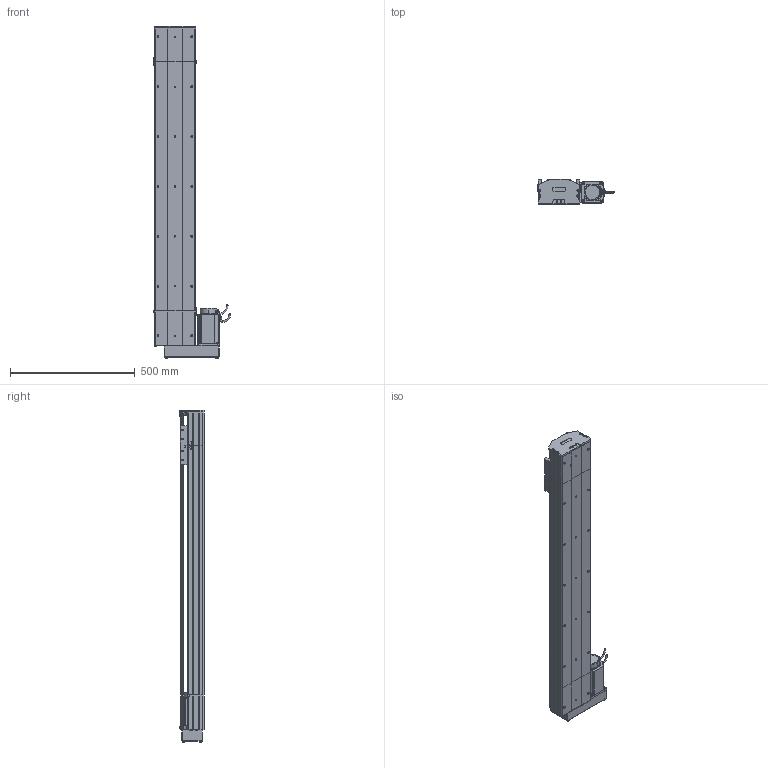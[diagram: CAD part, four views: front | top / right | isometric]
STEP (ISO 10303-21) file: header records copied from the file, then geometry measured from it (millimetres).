
FILE_DESCRIPTION (( 'STEP AP214' ), '1' );
FILE_NAME ('D17 TSH BL S1000.STEP', '2010-06-30T06:51:40', ( 'Christophe Gaillard' ), ( 'SGA' ), 'SwSTEP 2.0', 'SolidWorks 2010', '' );
FILE_SCHEMA (( 'AUTOMOTIVE_DESIGN' ));
Length unit declared in the file: millimetre
Products named in the file (33): corpl head D17 BM_Default; arbre + rail D17 Course 1000 ; course 1000 D17_Default; D17 TSH BL S1000; Tail D17_Default; couvercle D17 course L1000_Default; corp D17 1000_Default; tete d''axe bas D17; plaque de  bout tail D17_Default; corpl tail D17_Default; couvercle D17_Default; Arbre+rail tail D17; tete d''axe haut D17; head BL_Default; vis M5 L25_Default; vis M5 L8 90°_Default; vis M5 L12_Default; guide D17; Chariot D17; chariot D17S_Default; Cvis M5 L70_Default; renvoi BL_Default; Vis M5 L16-2_Default; Conecteur_Default; avant 90BLDC125A-640; Moteur motionking 90BLDC125A-640; vis M5 L5_Default; Conecteur2_Default; codeur 90BLDC125-640; corps 90BLDC125A-640; Arbre+rail head D17; plaque de  bout BM head D17_Default; couvercle D17 head_Default
Assembly tree (55 placements, depth 4):
  D17 TSH BL S1000
    chariot D17S_Default
      guide D17  x2
      vis M5 L12_Default  x4
      Chariot D17
    Tail D17_Default
      vis M5 L12_Default  x4
      vis M5 L25_Default  x2
      vis M5 L8 90°_Default  x2
      corpl tail D17_Default
      tete d''axe bas D17
      couvercle D17_Default
      tete d''axe haut D17
      plaque de  bout tail D17_Default
      Arbre+rail tail D17
    head BL_Default
      corpl head D17 BM_Default
      vis M5 L12_Default  x8
      Arbre+rail head D17
      renvoi BL_Default
      Vis M5 L16-2_Default  x4
      couvercle D17 head_Default
      Cvis M5 L70_Default  x2
      vis M5 L5_Default  x2
      Moteur motionking 90BLDC125A-640
        Conecteur_Default
        corps 90BLDC125A-640
        codeur 90BLDC125-640
        avant 90BLDC125A-640
        Conecteur2_Default
      plaque de  bout BM head D17_Default
    course 1000 D17_Default
      couvercle D17 course L1000_Default
      corp D17 1000_Default
      arbre + rail D17 Course 1000 
Bounding box: 308.95 x 99.7 x 1332.7 mm (x, y, z)
Volume: 8759942 mm3; surface area: 2230023.6 mm2
Topology: 80 solids, 80 shells, 2263 faces, 5699 edges, 3676 vertices
Faces by surface type: plane 1396, cylinder 590, bspline 136, torus 73, cone 64, sphere 4
Entity records: 73213 total; most frequent: CARTESIAN_POINT 22810, ORIENTED_EDGE 8906, DIRECTION 8346, EDGE_CURVE 4453, VECTOR 3070, LINE 3070, VERTEX_POINT 2922, AXIS2_PLACEMENT_3D 2638
